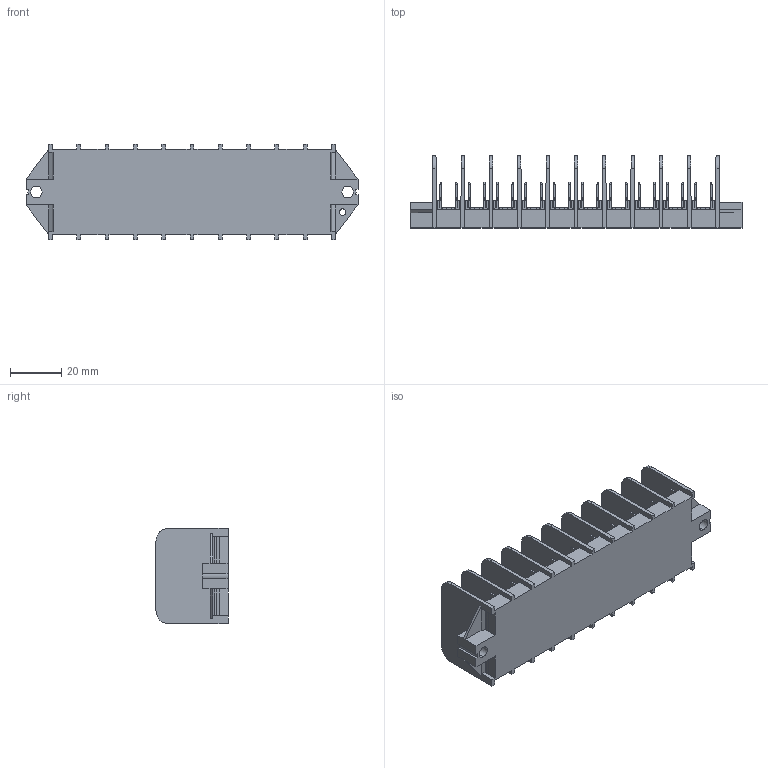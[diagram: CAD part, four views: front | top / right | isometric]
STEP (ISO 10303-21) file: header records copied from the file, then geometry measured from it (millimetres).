
FILE_DESCRIPTION (( 'STEP AP203' ), '1' );
FILE_NAME ('308-PA-102-10.STEP', '2018-05-23T21:34:22', ( '' ), ( '' ), 'SwSTEP 2.0', 'SolidWorks 2016', '' );
FILE_SCHEMA (( 'CONFIG_CONTROL_DESIGN' ));
Products named in the file (1): 308-PA-102-10
Bounding box: 129 x 28 x 37 mm (x, y, z)
Volume: 41828.5 mm3; surface area: 37841.1 mm2
Topology: 1 solids, 1 shells, 2604 faces, 7424 edges, 4772 vertices
Faces by surface type: plane 1694, cylinder 890, bspline 20
Entity records: 87077 total; most frequent: CARTESIAN_POINT 18953, ORIENTED_EDGE 14848, DIRECTION 13466, EDGE_CURVE 7424, LINE 5584, VECTOR 5584, VERTEX_POINT 4772, AXIS2_PLACEMENT_3D 3941
